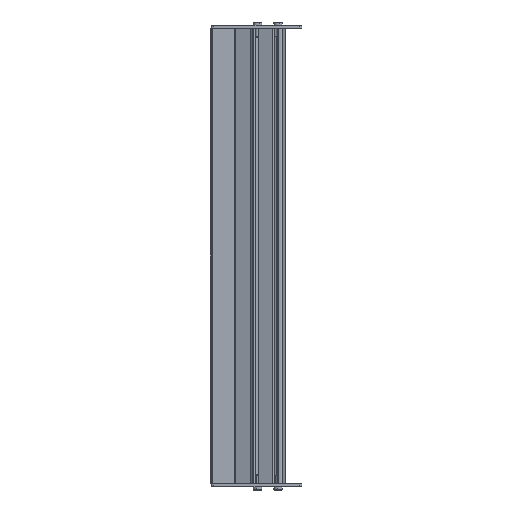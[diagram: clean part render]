
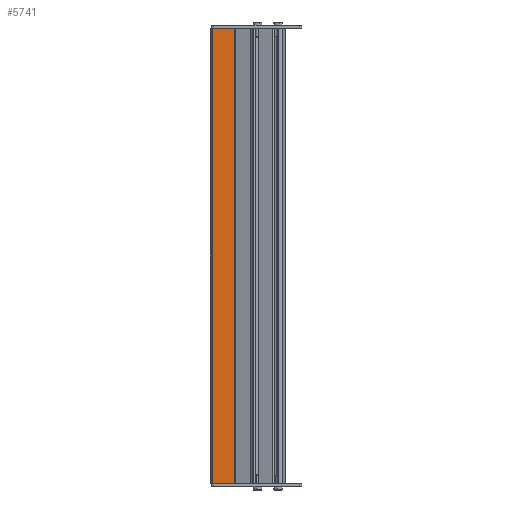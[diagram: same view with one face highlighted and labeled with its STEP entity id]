
A CAD part, left-side view. The second image highlights one B-rep face of the part: STEP entity #5741.
In plain terms, the highlighted planar face has unit normal (-1, 0, 0) as drawn and (1, 0, 0) by its records, which use the part's own axes.
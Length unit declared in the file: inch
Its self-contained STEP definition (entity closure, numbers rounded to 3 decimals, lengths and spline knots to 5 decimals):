
#4971=DIRECTION('',(0.,0.,1.));
#4972=VECTOR('',#4971,18.236);
#4973=CARTESIAN_POINT('',(0.048,0.01693,-9.118));
#4974=LINE('',#4973,#4972);
#5001=DIRECTION('',(0.,-1.,0.));
#5002=VECTOR('',#5001,0.88707);
#5003=CARTESIAN_POINT('',(0.048,0.904,-9.118));
#5004=LINE('',#5003,#5002);
#5005=DIRECTION('',(0.,-1.,0.));
#5006=VECTOR('',#5005,0.88707);
#5007=CARTESIAN_POINT('',(0.048,0.904,9.118));
#5008=LINE('',#5007,#5006);
#5009=DIRECTION('',(0.,0.,-1.));
#5010=VECTOR('',#5009,18.236);
#5011=CARTESIAN_POINT('',(0.048,0.904,9.118));
#5012=LINE('',#5011,#5010);
#5302=CARTESIAN_POINT('',(0.048,0.904,9.118));
#5304=VERTEX_POINT('',#5302);
#5305=CARTESIAN_POINT('',(0.048,0.01693,-9.118));
#5307=VERTEX_POINT('',#5305);
#5323=CARTESIAN_POINT('',(0.048,0.904,-9.118));
#5324=VERTEX_POINT('',#5323);
#5371=CARTESIAN_POINT('',(0.048,0.01693,9.118));
#5372=VERTEX_POINT('',#5371);
#5729=CARTESIAN_POINT('',(0.048,0.,9.118));
#5730=DIRECTION('',(-1.,0.,0.));
#5731=DIRECTION('',(0.,0.,1.));
#5732=AXIS2_PLACEMENT_3D('',#5729,#5730,#5731);
#5733=PLANE('',#5732);
#5734=ORIENTED_EDGE('',*,*,#5722,.T.);
#5735=ORIENTED_EDGE('',*,*,#5665,.T.);
#5736=ORIENTED_EDGE('',*,*,#5694,.F.);
#5738=ORIENTED_EDGE('',*,*,#5737,.T.);
#5739=EDGE_LOOP('',(#5734,#5735,#5736,#5738));
#5740=FACE_OUTER_BOUND('',#5739,.F.);
#5665=EDGE_CURVE('',#5307,#5372,#4974,.T.);
#5694=EDGE_CURVE('',#5304,#5372,#5008,.T.);
#5722=EDGE_CURVE('',#5324,#5307,#5004,.T.);
#5737=EDGE_CURVE('',#5304,#5324,#5012,.T.);
#5741=ADVANCED_FACE('',(#5740),#5733,.F.);
